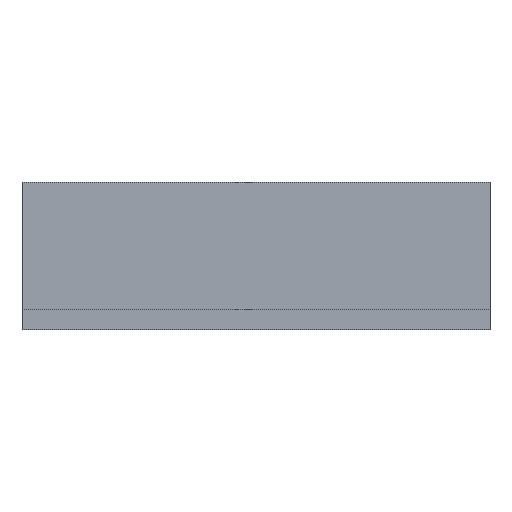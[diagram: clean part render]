
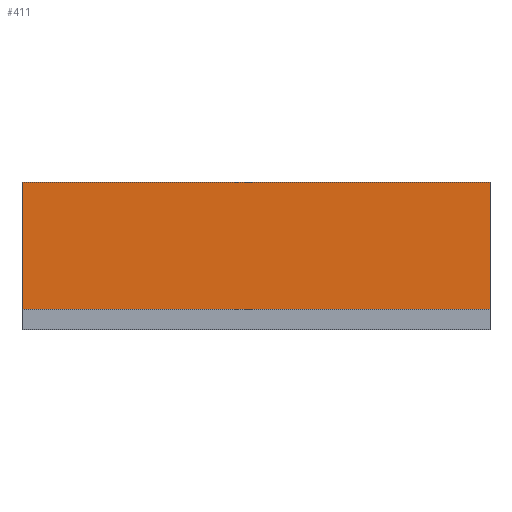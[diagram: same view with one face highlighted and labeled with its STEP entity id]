
A CAD part, top view. The second image highlights one B-rep face of the part: STEP entity #411.
In plain terms, the highlighted planar face has unit normal (0, 0, 1).
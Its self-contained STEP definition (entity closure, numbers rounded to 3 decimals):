
#32 = PLANE('',#33);
#33 = AXIS2_PLACEMENT_3D('',#34,#35,#36);
#34 = CARTESIAN_POINT('',(0.,0.,0.));
#35 = DIRECTION('',(1.,0.,0.));
#36 = DIRECTION('',(0.,0.,1.));
#85 = VERTEX_POINT('',#86);
#86 = CARTESIAN_POINT('',(0.,22.,3.));
#100 = PLANE('',#101);
#101 = AXIS2_PLACEMENT_3D('',#102,#103,#104);
#102 = CARTESIAN_POINT('',(0.,22.,0.));
#103 = DIRECTION('',(0.,1.,0.));
#104 = DIRECTION('',(0.,0.,1.));
#112 = EDGE_CURVE('',#113,#85,#115,.T.);
#113 = VERTEX_POINT('',#114);
#114 = CARTESIAN_POINT('',(0.,3.,3.));
#115 = SURFACE_CURVE('',#116,(#120,#127),.PCURVE_S1.);
#116 = LINE('',#117,#118);
#117 = CARTESIAN_POINT('',(0.,0.,3.));
#118 = VECTOR('',#119,1.);
#119 = DIRECTION('',(0.,1.,0.));
#120 = PCURVE('',#32,#121);
#121 = DEFINITIONAL_REPRESENTATION('',(#122),#126);
#122 = LINE('',#123,#124);
#123 = CARTESIAN_POINT('',(3.,0.));
#124 = VECTOR('',#125,1.);
#125 = DIRECTION('',(0.,-1.));
#126 = ( GEOMETRIC_REPRESENTATION_CONTEXT(2) 
PARAMETRIC_REPRESENTATION_CONTEXT() REPRESENTATION_CONTEXT('2D SPACE',''
  ) );
#127 = PCURVE('',#128,#133);
#128 = PLANE('',#129);
#129 = AXIS2_PLACEMENT_3D('',#130,#131,#132);
#130 = CARTESIAN_POINT('',(0.,0.,3.));
#131 = DIRECTION('',(0.,0.,1.));
#132 = DIRECTION('',(1.,0.,0.));
#133 = DEFINITIONAL_REPRESENTATION('',(#134),#138);
#134 = LINE('',#135,#136);
#135 = CARTESIAN_POINT('',(0.,0.));
#136 = VECTOR('',#137,1.);
#137 = DIRECTION('',(0.,1.));
#138 = ( GEOMETRIC_REPRESENTATION_CONTEXT(2) 
PARAMETRIC_REPRESENTATION_CONTEXT() REPRESENTATION_CONTEXT('2D SPACE',''
  ) );
#156 = PLANE('',#157);
#157 = AXIS2_PLACEMENT_3D('',#158,#159,#160);
#158 = CARTESIAN_POINT('',(0.,3.,0.));
#159 = DIRECTION('',(0.,1.,0.));
#160 = DIRECTION('',(0.,0.,1.));
#237 = PLANE('',#238);
#238 = AXIS2_PLACEMENT_3D('',#239,#240,#241);
#239 = CARTESIAN_POINT('',(70.,0.,0.));
#240 = DIRECTION('',(1.,0.,0.));
#241 = DIRECTION('',(0.,0.,1.));
#320 = VERTEX_POINT('',#321);
#321 = CARTESIAN_POINT('',(70.,22.,3.));
#342 = EDGE_CURVE('',#343,#320,#345,.T.);
#343 = VERTEX_POINT('',#344);
#344 = CARTESIAN_POINT('',(70.,3.,3.));
#345 = SURFACE_CURVE('',#346,(#350,#357),.PCURVE_S1.);
#346 = LINE('',#347,#348);
#347 = CARTESIAN_POINT('',(70.,0.,3.));
#348 = VECTOR('',#349,1.);
#349 = DIRECTION('',(0.,1.,0.));
#350 = PCURVE('',#237,#351);
#351 = DEFINITIONAL_REPRESENTATION('',(#352),#356);
#352 = LINE('',#353,#354);
#353 = CARTESIAN_POINT('',(3.,0.));
#354 = VECTOR('',#355,1.);
#355 = DIRECTION('',(0.,-1.));
#356 = ( GEOMETRIC_REPRESENTATION_CONTEXT(2) 
PARAMETRIC_REPRESENTATION_CONTEXT() REPRESENTATION_CONTEXT('2D SPACE',''
  ) );
#357 = PCURVE('',#128,#358);
#358 = DEFINITIONAL_REPRESENTATION('',(#359),#363);
#359 = LINE('',#360,#361);
#360 = CARTESIAN_POINT('',(70.,0.));
#361 = VECTOR('',#362,1.);
#362 = DIRECTION('',(0.,1.));
#363 = ( GEOMETRIC_REPRESENTATION_CONTEXT(2) 
PARAMETRIC_REPRESENTATION_CONTEXT() REPRESENTATION_CONTEXT('2D SPACE',''
  ) );
#391 = EDGE_CURVE('',#343,#113,#392,.T.);
#392 = SURFACE_CURVE('',#393,(#397,#403),.PCURVE_S1.);
#393 = LINE('',#394,#395);
#394 = CARTESIAN_POINT('',(0.,3.,3.));
#395 = VECTOR('',#396,1.);
#396 = DIRECTION('',(-1.,0.,0.));
#397 = PCURVE('',#156,#398);
#398 = DEFINITIONAL_REPRESENTATION('',(#399),#402);
#399 = B_SPLINE_CURVE_WITH_KNOTS('',1,(#400,#401),.UNSPECIFIED.,.F.,.F.,
  (2,2),(-70.,0.),.PIECEWISE_BEZIER_KNOTS.);
#400 = CARTESIAN_POINT('',(3.,70.));
#401 = CARTESIAN_POINT('',(3.,0.));
#402 = ( GEOMETRIC_REPRESENTATION_CONTEXT(2) 
PARAMETRIC_REPRESENTATION_CONTEXT() REPRESENTATION_CONTEXT('2D SPACE',''
  ) );
#403 = PCURVE('',#128,#404);
#404 = DEFINITIONAL_REPRESENTATION('',(#405),#408);
#405 = B_SPLINE_CURVE_WITH_KNOTS('',1,(#406,#407),.UNSPECIFIED.,.F.,.F.,
  (2,2),(-70.,0.),.PIECEWISE_BEZIER_KNOTS.);
#406 = CARTESIAN_POINT('',(70.,3.));
#407 = CARTESIAN_POINT('',(0.,3.));
#408 = ( GEOMETRIC_REPRESENTATION_CONTEXT(2) 
PARAMETRIC_REPRESENTATION_CONTEXT() REPRESENTATION_CONTEXT('2D SPACE',''
  ) );
#411 = ADVANCED_FACE('',(#412),#128,.T.);
#412 = FACE_BOUND('',#413,.T.);
#413 = EDGE_LOOP('',(#414,#415,#416,#417));
#414 = ORIENTED_EDGE('',*,*,#112,.F.);
#415 = ORIENTED_EDGE('',*,*,#391,.F.);
#416 = ORIENTED_EDGE('',*,*,#342,.T.);
#417 = ORIENTED_EDGE('',*,*,#418,.F.);
#418 = EDGE_CURVE('',#85,#320,#419,.T.);
#419 = SURFACE_CURVE('',#420,(#424,#431),.PCURVE_S1.);
#420 = LINE('',#421,#422);
#421 = CARTESIAN_POINT('',(0.,22.,3.));
#422 = VECTOR('',#423,1.);
#423 = DIRECTION('',(1.,0.,0.));
#424 = PCURVE('',#128,#425);
#425 = DEFINITIONAL_REPRESENTATION('',(#426),#430);
#426 = LINE('',#427,#428);
#427 = CARTESIAN_POINT('',(0.,22.));
#428 = VECTOR('',#429,1.);
#429 = DIRECTION('',(1.,0.));
#430 = ( GEOMETRIC_REPRESENTATION_CONTEXT(2) 
PARAMETRIC_REPRESENTATION_CONTEXT() REPRESENTATION_CONTEXT('2D SPACE',''
  ) );
#431 = PCURVE('',#100,#432);
#432 = DEFINITIONAL_REPRESENTATION('',(#433),#437);
#433 = LINE('',#434,#435);
#434 = CARTESIAN_POINT('',(3.,0.));
#435 = VECTOR('',#436,1.);
#436 = DIRECTION('',(0.,1.));
#437 = ( GEOMETRIC_REPRESENTATION_CONTEXT(2) 
PARAMETRIC_REPRESENTATION_CONTEXT() REPRESENTATION_CONTEXT('2D SPACE',''
  ) );
